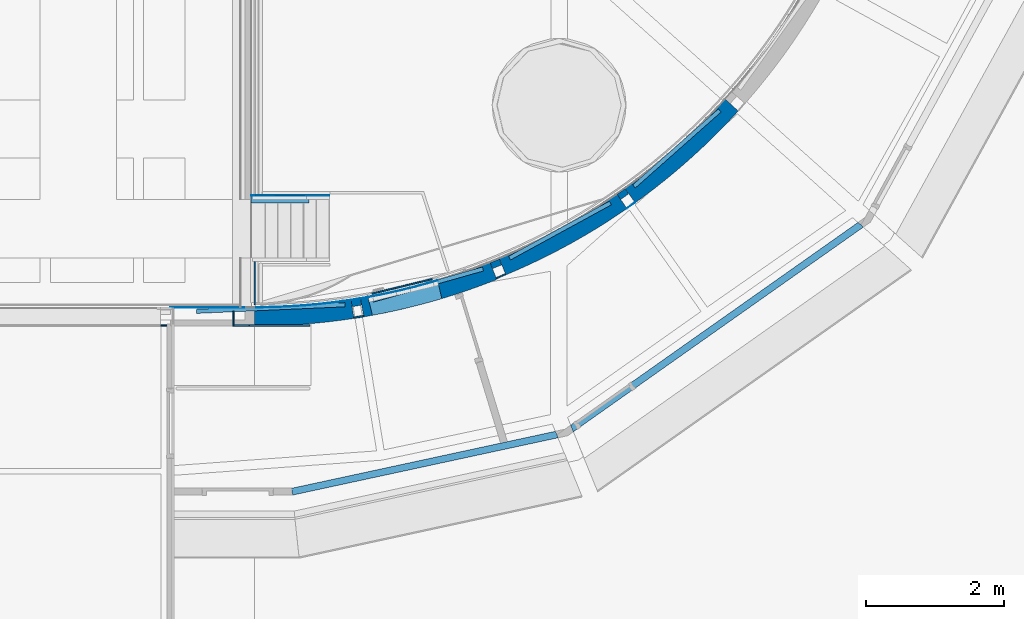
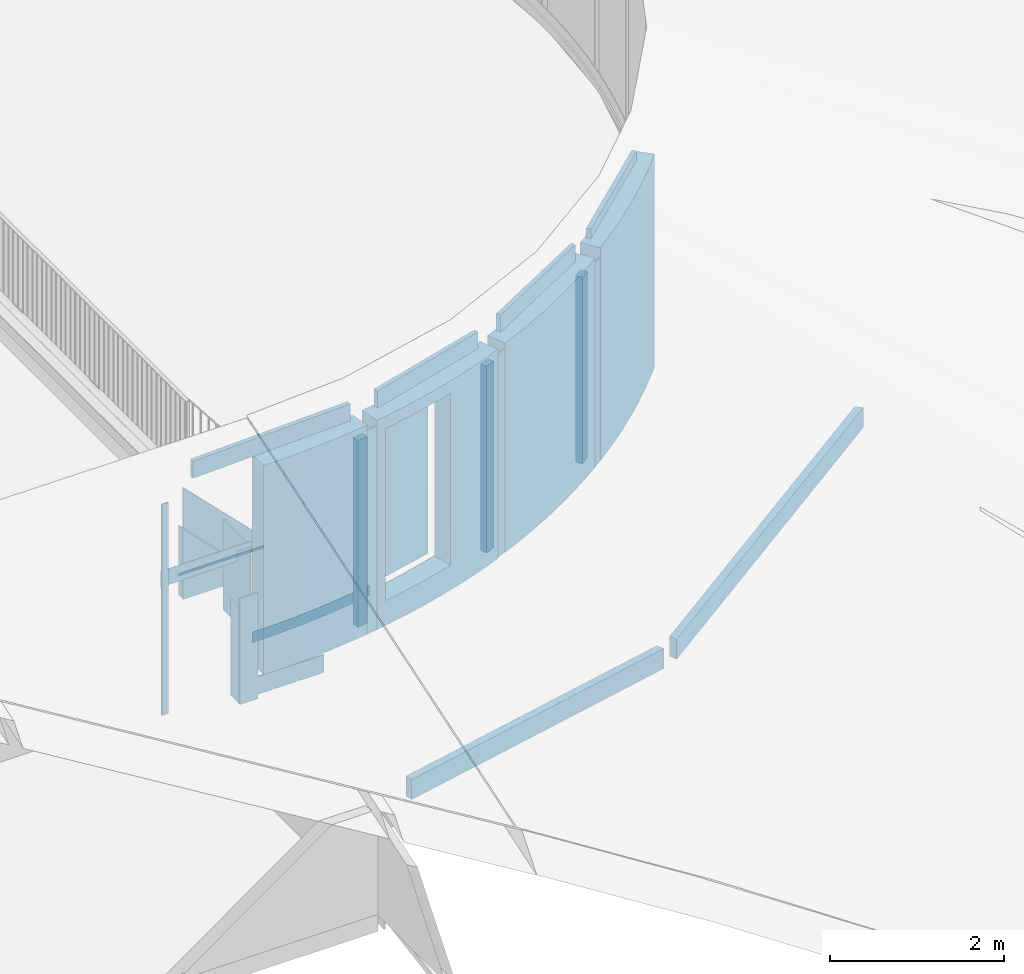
# One storey, part 28 of 66: 27 walls, 6 openings.
"""IFC2X3 building model written with IfcOpenShell, lengths in millimetres."""

import ifcopenshell
import ifcopenshell.guid

model = None  # the IFC model being written
_history = None  # IfcOwnerHistory: only IFC2X3 demands one
_inside = {}  # id of a spatial element -> (the spatial element, [elements in it])
_under = {}  # id of a project, library or spatial element -> (it, [spatial elements below it])
_declared = {}  # id of a project -> (the project, [libraries it declares])
_typed = {}  # id of a type object -> (the type object, [elements of that type])
_made_of = {}  # id of a material, layer set ... -> (it, [elements and type objects made of it])


def new_model(schema):
    """Start an empty IFC model of exactly this schema.

    Asked for "IFC4X3", IfcOpenShell would pick the latest addendum, in which some entities
    have other attributes; the version numbers below select the first issue.
    IFC2X3 requires an IfcOwnerHistory on every rooted entity: one is made here for all.
    """
    global model, _history
    if schema == "IFC4X3":
        model = ifcopenshell.file(schema_version=(4, 3, 0, 0))
    else:
        model = ifcopenshell.file(schema=schema)
    _inside.clear()
    _under.clear()
    _declared.clear()
    _typed.clear()
    _made_of.clear()
    _history = None
    if model.schema == "IFC2X3":
        org = make("IfcOrganization", Name="unknown")
        user = make(
            "IfcPersonAndOrganization",
            ThePerson=make("IfcPerson", FamilyName="unknown"),
            TheOrganization=org,
        )
        app = make(
            "IfcApplication",
            ApplicationDeveloper=org,
            Version="unknown",
            ApplicationFullName="unknown",
            ApplicationIdentifier="unknown",
        )
        _history = make(
            "IfcOwnerHistory",
            OwningUser=user,
            OwningApplication=app,
            ChangeAction="ADDED",
            CreationDate=0,
        )
    return model


def make(cls, **values):
    """One entity of the class cls with the attributes given. An attribute that is None is left unset."""
    return model.create_entity(
        cls, **{name: value for name, value in values.items() if value is not None}
    )


def entity(cls, *values):
    """Any entity or typed value of the class cls, its attributes in the order of the schema. None: left unset."""
    e = model.create_entity(cls)
    for i, value in enumerate(values):
        if value is not None:
            e[i] = value
    return e


def rooted(cls, **values):
    """An entity with a GlobalId (a new one), such as an element, a storey or a relation."""
    return make(cls, GlobalId=ifcopenshell.guid.new(), OwnerHistory=_history, **values)


def si_unit(unit_type, name, prefix=None):
    """IfcSIUnit, for example si_unit("LENGTHUNIT", "METRE", prefix="MILLI")."""
    return make("IfcSIUnit", UnitType=unit_type, Prefix=prefix, Name=name)


def converted_unit(unit_type, name, factor, base, dimensions=None, offset=None):
    """IfcConversionBasedUnit, such as the inch: factor (a typed value) times the base unit."""
    return make(
        "IfcConversionBasedUnit"
        if offset is None
        else "IfcConversionBasedUnitWithOffset",
        ConversionOffset=offset,
        Dimensions=None
        if dimensions is None
        else entity("IfcDimensionalExponents", *dimensions),
        UnitType=unit_type,
        Name=name,
        ConversionFactor=make(
            "IfcMeasureWithUnit", ValueComponent=factor, UnitComponent=base
        ),
    )


def derived_unit(unit_type, elements):
    """IfcDerivedUnit: a product of units, each with its exponent."""
    return make(
        "IfcDerivedUnit",
        Elements=[
            make("IfcDerivedUnitElement", Unit=unit, Exponent=power)
            for unit, power in elements
        ],
        UnitType=unit_type,
    )


def assignment(units):
    """IfcUnitAssignment: the units of a project."""
    return None if units is None else make("IfcUnitAssignment", Units=units)


def point(xyz):
    """IfcCartesianPoint."""
    return None if xyz is None else make("IfcCartesianPoint", Coordinates=xyz)


def direction(xyz):
    """IfcDirection."""
    return None if xyz is None else make("IfcDirection", DirectionRatios=xyz)


def frame(location, z_axis=None, x_axis=None):
    """IfcAxis2Placement3D, a coordinate frame: its origin and axes. An axis left out is left unset."""
    return make(
        "IfcAxis2Placement3D",
        Location=point(location),
        Axis=direction(z_axis),
        RefDirection=direction(x_axis),
    )


def frame_2d(location, x_axis=None):
    """IfcAxis2Placement2D, a coordinate frame in the plane: its origin and x axis."""
    return make(
        "IfcAxis2Placement2D", Location=point(location), RefDirection=direction(x_axis)
    )


def origin():
    """The frame at (0, 0, 0) with its axes left unset."""
    return frame((0.0, 0.0, 0.0))


def origin_2d_with_axis():
    """The frame at (0, 0) in the plane with the x axis (1, 0) written out."""
    return frame_2d((0.0, 0.0), x_axis=(1.0, 0.0))


def place(relative_to, where):
    """IfcLocalPlacement: puts the frame where relative to a parent placement (None: the world)."""
    return make(
        "IfcLocalPlacement", PlacementRelTo=relative_to, RelativePlacement=where
    )


def context(
    kind, dimensions, precision=None, world=None, true_north=None, identifier=None
):
    """IfcGeometricRepresentationContext, for example the 3D "Model" context."""
    return make(
        "IfcGeometricRepresentationContext",
        ContextIdentifier=identifier,
        ContextType=kind,
        CoordinateSpaceDimension=dimensions,
        Precision=precision,
        WorldCoordinateSystem=world,
        TrueNorth=true_north,
    )


def subcontext(parent, identifier, kind, view, scale=None):
    """IfcGeometricRepresentationSubContext, for example "Body" below "Model"."""
    return make(
        "IfcGeometricRepresentationSubContext",
        ContextIdentifier=identifier,
        ContextType=kind,
        ParentContext=parent,
        TargetScale=scale,
        TargetView=view,
    )


def project(units=None, contexts=None):
    """IfcProject with its units and contexts."""
    return rooted(
        "IfcProject",
        Name="project",
        RepresentationContexts=contexts,
        UnitsInContext=assignment(units),
    )


def spatial(cls, under=None, at=None, **own):
    """A site, building, storey or space (cls), placed at a placement, below another one or the project."""
    s = rooted(cls, ObjectPlacement=at, **own)
    if under is not None:
        _under.setdefault(under.id(), (under, []))[1].append(s)
    return s


def polyline(points):
    """IfcPolyline through the points."""
    return make("IfcPolyline", Points=[point(p) for p in points])


def circle_curve(where, radius):
    """IfcCircle in the frame where."""
    return make("IfcCircle", Position=where, Radius=radius)


def parameter(value):
    """IfcParameterValue: where a trimmed curve begins or ends, as a parameter of its basis curve."""
    return model.create_entity("IfcParameterValue", value)


def trimmed(basis, trim1, trim2, sense, master):
    """IfcTrimmedCurve: the piece of a basis curve between two trims."""
    return make(
        "IfcTrimmedCurve",
        BasisCurve=basis,
        Trim1=trim1,
        Trim2=trim2,
        SenseAgreement=sense,
        MasterRepresentation=master,
    )


def segment(curve, same_sense, transition):
    """IfcCompositeCurveSegment."""
    return make(
        "IfcCompositeCurveSegment",
        Transition=transition,
        SameSense=same_sense,
        ParentCurve=curve,
    )


def composite_curve(segments, self_intersect=None):
    """IfcCompositeCurve: segments joined end to end."""
    return make("IfcCompositeCurve", Segments=segments, SelfIntersect=self_intersect)


def profile(cls, at=None, kind="AREA", **sizes):
    """A parametric profile (cls). Its sizes go by their IFC names, for example OverallWidth=200.0."""
    return make(cls, ProfileType=kind, Position=at, **sizes)


def rectangle(**sizes):
    """IfcRectangleProfileDef."""
    return profile("IfcRectangleProfileDef", **sizes)


def circle(**sizes):
    """IfcCircleProfileDef."""
    return profile("IfcCircleProfileDef", **sizes)


def outline(outer, holes=None, kind="AREA"):
    """IfcArbitraryClosedProfileDef: a profile drawn as a closed curve; with holes, ...WithVoids."""
    if holes is None:
        return make("IfcArbitraryClosedProfileDef", ProfileType=kind, OuterCurve=outer)
    return make(
        "IfcArbitraryProfileDefWithVoids",
        ProfileType=kind,
        OuterCurve=outer,
        InnerCurves=holes,
    )


def extrude(swept, where, along, depth):
    """IfcExtrudedAreaSolid: the profile swept, set in the frame where, extruded along a direction by depth."""
    return make(
        "IfcExtrudedAreaSolid",
        SweptArea=swept,
        Position=where,
        ExtrudedDirection=direction(along),
        Depth=depth,
    )


def clip(a, b, op="DIFFERENCE"):
    """IfcBooleanClippingResult: the solid a cut by the half space b."""
    return make(
        "IfcBooleanClippingResult", Operator=op, FirstOperand=a, SecondOperand=b
    )


def halfspace(plane, agree):
    """IfcHalfSpaceSolid: all space on one side of the plane z = 0 of the frame plane."""
    return make(
        "IfcHalfSpaceSolid",
        BaseSurface=make("IfcPlane", Position=plane),
        AgreementFlag=agree,
    )


def shape(context_of_items, identifier, shape_type, items):
    """IfcShapeRepresentation: the items that make up one representation, for example the "Body"."""
    return make(
        "IfcShapeRepresentation",
        ContextOfItems=context_of_items,
        RepresentationIdentifier=identifier,
        RepresentationType=shape_type,
        Items=items,
    )


def material(Name=None, Category=None):
    """IfcMaterial."""
    return make("IfcMaterial", Name=Name, Category=Category)


def layer(
    of_material, thickness, ventilated=None, Name=None, Category=None, Priority=None
):
    """IfcMaterialLayer: one layer of a wall or slab, of a material (None: an air gap)."""
    return make(
        "IfcMaterialLayer",
        Material=of_material,
        LayerThickness=thickness,
        IsVentilated=ventilated,
        Name=Name,
        Category=Category,
        Priority=Priority,
    )


def layer_set(layers, Name=None):
    """IfcMaterialLayerSet."""
    return make("IfcMaterialLayerSet", MaterialLayers=layers, LayerSetName=Name)


def layer_usage(for_layer_set, set_direction, sense, offset, extent=None):
    """IfcMaterialLayerSetUsage: how a layer set lies in its element."""
    return make(
        "IfcMaterialLayerSetUsage",
        ForLayerSet=for_layer_set,
        LayerSetDirection=set_direction,
        DirectionSense=sense,
        OffsetFromReferenceLine=offset,
        ReferenceExtent=extent,
    )


def made_of(thing, what):
    """Note that an element or type object is made of a material, layer set ...; save() writes the relation."""
    if what is not None:
        _made_of.setdefault(what.id(), (what, []))[1].append(thing)
    return thing


def type_object(cls, material=None, **own):
    """A type object (cls), such as IfcWallType, which elements share."""
    return made_of(rooted(cls, **own), material)


def element(
    cls,
    number,
    at=None,
    inside=None,
    cuts=None,
    type_object=None,
    material=None,
    context=None,
    identifier="Body",
    shape_type=None,
    held_by="IfcProductDefinitionShape",
    body=None,
    shapes=None,
    **own,
):
    """One element of the class cls, such as IfcWall. Its Tag is "e" and its number.

    at: its placement. inside: the storey or other place that contains it. cuts: it is an
    opening in that element (IfcRelVoidsElement). A single representation is given by context,
    identifier, shape_type and body (its items); several are given by shapes. held_by: the class
    of the entity that holds the representations. save() writes the other relations.
    """
    e = rooted(cls, Tag="e%d" % number, ObjectPlacement=at, **own)
    if body is not None:
        shapes = [shape(context, identifier, shape_type, body)]
    if shapes is not None:
        e.Representation = make(held_by, Representations=shapes)
    if inside is not None:
        _inside.setdefault(inside.id(), (inside, []))[1].append(e)
    if cuts is not None:
        rooted(
            "IfcRelVoidsElement", RelatingBuildingElement=cuts, RelatedOpeningElement=e
        )
    if type_object is not None:
        _typed.setdefault(type_object.id(), (type_object, []))[1].append(e)
    return made_of(e, material)


def aggregate(whole, parts):
    """IfcRelAggregates: a whole, such as a stair, and the parts it consists of."""
    return rooted("IfcRelAggregates", RelatingObject=whole, RelatedObjects=parts)


def save(model, path):
    """Write the relations noted so far, then the file.

    IfcRelAggregates (storeys below a building ...), IfcRelContainedInSpatialStructure (elements
    in a storey), IfcRelDefinesByType, IfcRelAssociatesMaterial and IfcRelDeclares: one each for
    every whole, place, type object, material and project.
    """
    for whole, parts in _under.values():
        aggregate(whole, parts)
    for where, things in _inside.values():
        rooted(
            "IfcRelContainedInSpatialStructure",
            RelatedElements=things,
            RelatingStructure=where,
        )
    for kind, things in _typed.values():
        rooted("IfcRelDefinesByType", RelatedObjects=things, RelatingType=kind)
    for what, things in _made_of.values():
        rooted("IfcRelAssociatesMaterial", RelatedObjects=things, RelatingMaterial=what)
    for by, libraries in _declared.values():
        rooted("IfcRelDeclares", RelatingContext=by, RelatedDefinitions=libraries)
    model.write(path)


model = new_model("IFC2X3")

# Units and contexts
model_context = context("Model", 3, precision=0.01, world=origin(), true_north=direction((6.12303176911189e-17, 1.0)))
body_context = subcontext(model_context, "Body", "Model", "MODEL_VIEW")
ifc_project = project(units=[si_unit("LENGTHUNIT", "METRE", prefix="MILLI"), si_unit("AREAUNIT", "SQUARE_METRE"), si_unit("VOLUMEUNIT", "CUBIC_METRE"), converted_unit("PLANEANGLEUNIT", "DEGREE", entity("IfcRatioMeasure", 0.0174532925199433), si_unit("PLANEANGLEUNIT", "RADIAN"), dimensions=[0, 0, 0, 0, 0, 0, 0]), si_unit("MASSUNIT", "GRAM", prefix="KILO"), derived_unit("MASSDENSITYUNIT", [(si_unit("MASSUNIT", "GRAM", prefix="KILO"), 1), (si_unit("LENGTHUNIT", "METRE"), -3)]), derived_unit("MOMENTOFINERTIAUNIT", [(si_unit("LENGTHUNIT", "METRE"), 4)]), si_unit("TIMEUNIT", "SECOND"), si_unit("FREQUENCYUNIT", "HERTZ"), si_unit("THERMODYNAMICTEMPERATUREUNIT", "DEGREE_CELSIUS"), derived_unit("THERMALTRANSMITTANCEUNIT", [(si_unit("MASSUNIT", "GRAM", prefix="KILO"), 1), (si_unit("THERMODYNAMICTEMPERATUREUNIT", "KELVIN"), -1), (si_unit("TIMEUNIT", "SECOND"), -3)]), derived_unit("VOLUMETRICFLOWRATEUNIT", [(si_unit("LENGTHUNIT", "METRE"), 3), (si_unit("TIMEUNIT", "SECOND"), -1)]), si_unit("ELECTRICCURRENTUNIT", "AMPERE"), si_unit("ELECTRICVOLTAGEUNIT", "VOLT"), si_unit("POWERUNIT", "WATT"), si_unit("FORCEUNIT", "NEWTON", prefix="KILO"), si_unit("ILLUMINANCEUNIT", "LUX"), si_unit("LUMINOUSFLUXUNIT", "LUMEN"), si_unit("LUMINOUSINTENSITYUNIT", "CANDELA"), derived_unit("USERDEFINED", [(si_unit("MASSUNIT", "GRAM", prefix="KILO"), -1), (si_unit("LENGTHUNIT", "METRE"), -2), (si_unit("TIMEUNIT", "SECOND"), 3), (si_unit("LUMINOUSFLUXUNIT", "LUMEN"), 1)]), derived_unit("LINEARVELOCITYUNIT", [(si_unit("LENGTHUNIT", "METRE"), 1), (si_unit("TIMEUNIT", "SECOND"), -1)]), si_unit("PRESSUREUNIT", "PASCAL"), derived_unit("USERDEFINED", [(si_unit("LENGTHUNIT", "METRE"), -2), (si_unit("MASSUNIT", "GRAM", prefix="KILO"), 1), (si_unit("TIMEUNIT", "SECOND"), -2)]), derived_unit("LINEARFORCEUNIT", [(si_unit("MASSUNIT", "GRAM", prefix="KILO"), 1), (si_unit("LENGTHUNIT", "METRE"), 1), (si_unit("TIMEUNIT", "SECOND"), -2), (si_unit("LENGTHUNIT", "METRE"), -1)]), derived_unit("PLANARFORCEUNIT", [(si_unit("MASSUNIT", "GRAM", prefix="KILO"), 1), (si_unit("LENGTHUNIT", "METRE"), 1), (si_unit("TIMEUNIT", "SECOND"), -2), (si_unit("LENGTHUNIT", "METRE"), -2)])], contexts=[model_context])

# Site, building, storey
site_placement = place(None, origin())
site = spatial("IfcSite", under=ifc_project, at=site_placement, Name="Default", CompositionType="ELEMENT")
building_placement = place(site_placement, origin())
building = spatial("IfcBuilding", under=site, at=building_placement, Name="-", CompositionType="ELEMENT")
storey_placement = place(building_placement, frame((0.0, 0.0, 3070.0)))
storey = spatial("IfcBuildingStorey", under=building, at=storey_placement, Name="01 eerste verdieping", CompositionType="ELEMENT", Elevation=3070.00000000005)

# Wall, opening
ifc_material_1 = material(Name="NLRS_i4_hout_multiplex")
ifc_layer_1 = layer(ifc_material_1, 9.0)
ifc_material_2 = material(Name="NLRS_m1_isolatie")
ifc_layer_2 = layer(ifc_material_2, 89.0)
ifc_layer_3 = layer(ifc_material_1, 9.0)
ifc_layer_set_1 = layer_set([ifc_layer_1, ifc_layer_2, ifc_layer_3], Name="Basic Wall:NLRS_21_WA_HSB-wand_110mm")
ifc_layer_usage_1 = layer_usage(ifc_layer_set_1, "AXIS2", "NEGATIVE", 53.5)
wall_type_1 = type_object("IfcWallType", Name="Basic Wall:NLRS_21_WA_HSB-wand_110mm", PredefinedType="STANDARD", material=ifc_layer_set_1)
wall_1_placement = place(storey_placement, frame((50599.1203901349, 11977.4965964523, 100.0)))
wall_1 = element("IfcWallStandardCase", 1, at=wall_1_placement, inside=storey, type_object=wall_type_1, material=ifc_layer_usage_1, Name="Basic Wall:NLRS_21_WA_HSB-wand_110mm", ObjectType="Basic Wall:NLRS_21_WA_HSB-wand_110mm", context=body_context, shape_type="Clipping", body=[
    clip(clip(extrude(rectangle(XDim=839.165664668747, YDim=107.000000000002, at=frame_2d((419.582832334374, 6.75015598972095e-14), x_axis=(-1.0, 0.0))), origin(), (0.0, 0.0, 1.0), 985.81366904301), halfspace(frame((0.0, -53.4999999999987, 985.81366904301), z_axis=(0.707379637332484, 0.0, 0.706833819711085), x_axis=(0.0, 1.0, 0.0)), False)), halfspace(frame((802.500000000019, 0.0, 0.0), z_axis=(0.969883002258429, 0.0, -0.243571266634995), x_axis=(0.0, 1.0, 0.0)), False)),
])
opening_1_placement = place(wall_1_placement, origin())
element("IfcOpeningElement", 2, at=opening_1_placement, cuts=wall_1, Name="Basic Wall:NLRS_21_WA_HSB-wand_110mm", ObjectType="Opening", context=body_context, shape_type="SweptSolid", body=[
    extrude(outline(polyline([(-97.3788463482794, -11.8538016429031), (53.1547743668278, -11.8538016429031), (44.2240719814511, 23.7076032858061), (-97.3788463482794, -11.8538016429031)])), frame((814.721888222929, 53.5000000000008, 97.3333333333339), z_axis=(0.0, -1.0, 0.0), x_axis=(0.243571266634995, 0.0, 0.969883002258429)), (0.0, 0.0, 1.0), 107.0),
])

# Walls
ifc_material_3 = material(Name="NLRS_f7_gipsplaat_gen")
ifc_layer_4 = layer(ifc_material_3, 12.5)
ifc_layer_5 = layer(ifc_material_2, 75.0)
ifc_layer_6 = layer(ifc_material_3, 12.5)
ifc_layer_set_2 = layer_set([ifc_layer_4, ifc_layer_5, ifc_layer_6], Name="Basic Wall:NLRS_21_WA_Metalstud 100mm")
ifc_layer_usage_2 = layer_usage(ifc_layer_set_2, "AXIS2", "NEGATIVE", 50.0)
wall_type_2 = type_object("IfcWallType", Name="Basic Wall:NLRS_21_WA_Metalstud 100mm", PredefinedType="STANDARD", material=ifc_layer_set_2)
wall_2_placement = place(storey_placement, frame((51193.082806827, 7752.05349695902, -370.0), z_axis=(0.0, 0.0, 1.0), x_axis=(0.977456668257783, 0.211136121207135, 0.0)))
element("IfcWallStandardCase", 3, at=wall_2_placement, inside=storey, type_object=wall_type_2, material=ifc_layer_usage_2, Name="Basic Wall:NLRS_21_WA_Metalstud 100mm", ObjectType="Basic Wall:NLRS_21_WA_Metalstud 100mm", context=body_context, shape_type="SweptSolid", body=[
    extrude(outline(polyline([(3925.04538246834, -50.0), (3907.41532412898, 50.0), (0.0, 50.0), (0.0, -50.0), (3925.04538246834, -50.0)])), origin(), (0.0, 0.0, 1.0), 281.00000000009),
])
ifc_layer_usage_3 = layer_usage(ifc_layer_set_2, "AXIS2", "NEGATIVE", 50.0)
wall_3_placement = place(storey_placement, frame((55230.0486654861, 8658.86593528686, -370.0), z_axis=(0.0, 0.0, 1.0), x_axis=(0.817088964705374, 0.576511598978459, 0.0)))
element("IfcWallStandardCase", 4, at=wall_3_placement, inside=storey, type_object=wall_type_2, material=ifc_layer_usage_3, Name="Basic Wall:NLRS_21_WA_Metalstud 100mm", ObjectType="Basic Wall:NLRS_21_WA_Metalstud 100mm", context=body_context, shape_type="SweptSolid", body=[
    extrude(outline(polyline([(5135.94151948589, -50.0), (5112.88794899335, 50.0), (23.120069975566, 50.0), (0.0, -50.0), (5135.94151948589, -50.0)])), origin(), (0.0, 0.0, 1.0), 281.00000000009),
])
ifc_material_4 = material(Name="AL Houten gevelbekleding staand")
ifc_layer_7 = layer(ifc_material_4, 20.0)
ifc_layer_set_3 = layer_set([ifc_layer_7], Name="Basic Wall:NLRS_42_WA_Houten gevelbekleding staand 20mm")
ifc_layer_usage_4 = layer_usage(ifc_layer_set_3, "AXIS2", "NEGATIVE", 10.0)
wall_type_3 = type_object("IfcWallType", Name="Basic Wall:NLRS_42_WA_Houten gevelbekleding staand 20mm", PredefinedType="STANDARD", material=ifc_layer_set_3)
wall_4_placement = place(storey_placement, frame((50652.137263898, 10458.6257955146, 450.0), z_axis=(0.0, 0.0, 1.0), x_axis=(0.0, 1.0, 0.0)))
element("IfcWallStandardCase", 5, at=wall_4_placement, inside=storey, type_object=wall_type_3, material=ifc_layer_usage_4, Name="Basic Wall:NLRS_42_WA_Houten gevelbekleding staand 20mm", ObjectType="Basic Wall:NLRS_42_WA_Houten gevelbekleding staand 20mm", context=body_context, shape_type="SweptSolid", body=[
    extrude(rectangle(XDim=622.370800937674, YDim=19.9999999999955, at=frame_2d((311.185400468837, 0.0), x_axis=(-1.0, 0.0))), origin(), (0.0, 0.0, 1.0), 1275.0),
])

# Wall, opening
ifc_layer_usage_5 = layer_usage(ifc_layer_set_3, "AXIS2", "NEGATIVE", 10.0)
wall_5_placement = place(storey_placement, frame((52347.5155383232, 10616.4745934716, 502.0), z_axis=(0.0, 0.0, 1.0), x_axis=(0.972293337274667, 0.233764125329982, 0.0)))
wall_5 = element("IfcWallStandardCase", 6, at=wall_5_placement, inside=storey, type_object=wall_type_3, material=ifc_layer_usage_5, Name="Basic Wall:NLRS_42_WA_Houten gevelbekleding staand 20mm", ObjectType="Basic Wall:NLRS_42_WA_Houten gevelbekleding staand 20mm", context=body_context, shape_type="SweptSolid", body=[
    extrude(rectangle(XDim=894.954998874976, YDim=20.0000000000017, at=frame_2d((447.477499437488, 1.24611432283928e-12), x_axis=(-1.0, 0.0))), origin(), (0.0, 0.0, 1.0), 2303.0),
])
opening_2_placement = place(wall_5_placement, origin())
element("IfcOpeningElement", 7, at=opening_2_placement, cuts=wall_5, Name="Basic Wall:NLRS_42_WA_Houten gevelbekleding staand 20mm", ObjectType="Opening", context=body_context, shape_type="SweptSolid", body=[
    extrude(circle(Radius=24.9999999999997, at=origin_2d_with_axis()), frame((34.9549988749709, 10.0, 1050.0), z_axis=(0.0, -1.0, 0.0), x_axis=(-1.0, 0.0, 0.0)), (0.0, 0.0, 1.0), 20.0),
])

# Wall
ifc_layer_8 = layer(ifc_material_1, 10.0)
ifc_layer_9 = layer(ifc_material_2, 235.0)
ifc_layer_10 = layer(ifc_material_1, 10.0)
ifc_layer_11 = layer(ifc_material_3, 12.5)
ifc_layer_set_4 = layer_set([ifc_layer_8, ifc_layer_9, ifc_layer_10, ifc_layer_11], Name="Basic Wall:NLRS_21_WA_HSB-wand_268mm")
ifc_layer_usage_6 = layer_usage(ifc_layer_set_4, "AXIS2", "NEGATIVE", 133.75)
wall_type_4 = type_object("IfcWallType", Name="Basic Wall:NLRS_21_WA_HSB-wand_268mm", PredefinedType="STANDARD", material=ifc_layer_set_4)
wall_6_placement = place(storey_placement, frame((50646.5626620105, 10280.8740954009, 100.0)))
element("IfcWallStandardCase", 8, at=wall_6_placement, inside=storey, type_object=wall_type_4, material=ifc_layer_usage_6, Name="Basic Wall:NLRS_21_WA_HSB-wand_268mm", ObjectType="Basic Wall:NLRS_21_WA_HSB-wand_268mm", context=body_context, shape_type="SweptSolid", body=[
    extrude(outline(composite_curve([segment(trimmed(circle_curve(frame_2d((0.0, 9335.1856335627), x_axis=(1.0, 0.0)), 9201.4356335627), [parameter(269.999999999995)], [parameter(278.751311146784)], True, "PARAMETER"), False, "CONTINUOUS"), segment(polyline([(0.0, 133.75), (0.0, -133.75)]), True, "CONTINUOUS"), segment(trimmed(circle_curve(frame_2d((0.0, 9335.1856335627), x_axis=(1.0, 0.0)), 9468.9356335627), [parameter(269.999999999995)], [parameter(278.751311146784)], True, "PARAMETER"), True, "CONTINUOUS"), segment(polyline([(1440.66071542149, -23.512926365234), (1399.96165944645, 240.872846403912)]), True, "CONTINUOUS")], self_intersect=False)), origin(), (0.0, 0.0, 1.0), 2945.0),
])

# Wall, opening
ifc_layer_usage_7 = layer_usage(ifc_layer_set_4, "AXIS2", "NEGATIVE", 133.75)
wall_7_placement = place(storey_placement, frame((52207.2378899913, 10412.2570558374, 100.0)))
wall_7 = element("IfcWallStandardCase", 9, at=wall_7_placement, inside=storey, type_object=wall_type_4, material=ifc_layer_usage_7, Name="Basic Wall:NLRS_21_WA_HSB-wand_268mm", ObjectType="Basic Wall:NLRS_21_WA_HSB-wand_268mm", context=body_context, shape_type="SweptSolid", body=[
    extrude(outline(composite_curve([segment(trimmed(circle_curve(frame_2d((-1560.67522797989, 9203.80267312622), x_axis=(1.0, 0.0)), 9201.4356335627), [parameter(279.624016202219)], [parameter(291.74085005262)], True, "PARAMETER"), False, "CONTINUOUS"), segment(polyline([(-22.3605957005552, 131.867608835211), (22.3605957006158, -131.867608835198)]), True, "CONTINUOUS"), segment(trimmed(circle_curve(frame_2d((-1560.67522797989, 9203.80267312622), x_axis=(1.0, 0.0)), 9468.9356335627), [parameter(279.624016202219)], [parameter(291.74085005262)], True, "PARAMETER"), True, "CONTINUOUS"), segment(polyline([(1946.70474494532, 408.404571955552), (1847.62030936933, 656.876953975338)]), True, "CONTINUOUS")], self_intersect=False)), origin(), (0.0, 0.0, 1.0), 2945.0),
])
opening_3_placement = place(wall_7_placement, origin())
element("IfcOpeningElement", 10, at=opening_3_placement, cuts=wall_7, Name="Basic Wall:NLRS_21_WA_HSB-wand_268mm", ObjectType="Opening", context=body_context, shape_type="SweptSolid", body=[
    extrude(rectangle(XDim=460.086226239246, YDim=1033.98355141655, at=frame_2d((-5.24380538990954e-12, 3.18323145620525e-12), x_axis=(1.0, 0.0))), frame((620.656908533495, 18258.6217723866, 350.0), z_axis=(0.0, 0.0, 1.0), x_axis=(-0.234120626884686, -0.972207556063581, 0.0)), (0.0, 0.0, 1.0), 2422.0),
    extrude(rectangle(XDim=1034.0, YDim=450.000000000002, at=frame_2d((3.75166564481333e-12, -3.11217718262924e-12), x_axis=(1.0, 0.0))), frame((615.215534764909, 153.636877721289, 350.0), z_axis=(0.0, 0.0, 1.0), x_axis=(-0.972293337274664, -0.233764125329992, 0.0)), (0.0, 0.0, 1.0), 2422.0),
])

# Walls
ifc_layer_12 = layer(ifc_material_1, 18.0)
ifc_layer_set_5 = layer_set([ifc_layer_12], Name="Basic Wall:NLRS_41_WA_plaatmateriaal 18mm_gen_aly")
ifc_layer_usage_8 = layer_usage(ifc_layer_set_5, "AXIS2", "NEGATIVE", 9.0)
wall_type_5 = type_object("IfcWallType", Name="Basic Wall:NLRS_41_WA_plaatmateriaal 18mm_gen_aly", PredefinedType="STANDARD", material=ifc_layer_set_5)
wall_8_placement = place(storey_placement, frame((54282.1619146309, 10896.1010439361, 100.0), z_axis=(0.0, 0.0, 1.0), x_axis=(-0.925957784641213, -0.377627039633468, 0.0)))
element("IfcWallStandardCase", 11, at=wall_8_placement, inside=storey, type_object=wall_type_5, material=ifc_layer_usage_8, Name="Basic Wall:NLRS_41_WA_plaatmateriaal 18mm_gen_aly", ObjectType="Basic Wall:NLRS_41_WA_plaatmateriaal 18mm_gen_aly", context=body_context, shape_type="SweptSolid", body=[
    extrude(rectangle(XDim=147.038491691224, YDim=17.9999999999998, at=frame_2d((73.519245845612, -8.88178419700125e-16), x_axis=(-1.0, 0.0))), origin(), (0.0, 0.0, 1.0), 2870.0),
])
ifc_layer_usage_9 = layer_usage(ifc_layer_set_5, "AXIS2", "POSITIVE", -9.0)
wall_9_placement = place(storey_placement, frame((49290.9383944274, 10156.1240954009, 0.0)))
element("IfcWallStandardCase", 12, at=wall_9_placement, inside=storey, type_object=wall_type_5, material=ifc_layer_usage_9, Name="Basic Wall:NLRS_41_WA_plaatmateriaal 18mm_gen_aly", ObjectType="Basic Wall:NLRS_41_WA_plaatmateriaal 18mm_gen_aly", context=body_context, shape_type="SweptSolid", body=[
    extrude(rectangle(XDim=90.681995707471, YDim=18.0000000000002, at=frame_2d((45.3409978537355, 1.00364161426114e-13), x_axis=(-1.0, 0.0))), origin(), (0.0, 0.0, 1.0), 2970.0),
])
ifc_layer_13 = layer(ifc_material_1, 10.0)
ifc_layer_14 = layer(ifc_material_2, 235.0)
ifc_layer_15 = layer(ifc_material_1, 10.0)
ifc_layer_set_6 = layer_set([ifc_layer_13, ifc_layer_14, ifc_layer_15], Name="Basic Wall:NLRS_21_WA_HSB-wand_268mm (zonder gips)")
ifc_layer_usage_10 = layer_usage(ifc_layer_set_6, "AXIS2", "NEGATIVE", 127.5)
wall_type_6 = type_object("IfcWallType", Name="Basic Wall:NLRS_21_WA_HSB-wand_268mm (zonder gips)", PredefinedType="STANDARD", material=ifc_layer_set_6)
wall_10_placement = place(storey_placement, frame((54236.5680389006, 11005.4788894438, 100.0)))
element("IfcWallStandardCase", 13, at=wall_10_placement, inside=storey, type_object=wall_type_6, material=ifc_layer_usage_10, Name="Basic Wall:NLRS_21_WA_HSB-wand_268mm (zonder gips)", ObjectType="Basic Wall:NLRS_21_WA_HSB-wand_268mm (zonder gips)", context=body_context, shape_type="SweptSolid", body=[
    extrude(outline(composite_curve([segment(trimmed(circle_curve(frame_2d((-3590.00537688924, 8610.58083951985), x_axis=(1.0, 0.0)), 9201.5), [parameter(292.632696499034)], [parameter(304.748293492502)], True, "PARAMETER"), False, "CONTINUOUS"), segment(polyline([(-49.064817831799, 117.681322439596), (49.064817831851, -117.681322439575)]), True, "CONTINUOUS"), segment(trimmed(circle_curve(frame_2d((-3590.00537688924, 8610.58083951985), x_axis=(1.0, 0.0)), 9456.5), [parameter(292.632696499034)], [parameter(304.748293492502)], True, "PARAMETER"), True, "CONTINUOUS"), segment(polyline([(1799.93758602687, 840.51603242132), (1654.59465200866, 1050.04033060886)]), True, "CONTINUOUS")], self_intersect=False)), origin(), (0.0, 0.0, 1.0), 2945.0),
])
ifc_layer_usage_11 = layer_usage(ifc_layer_set_6, "AXIS2", "NEGATIVE", 127.5)
wall_11_placement = place(storey_placement, frame((56081.6800652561, 12033.8608517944, 100.0)))
element("IfcWallStandardCase", 14, at=wall_11_placement, inside=storey, type_object=wall_type_6, material=ifc_layer_usage_11, Name="Basic Wall:NLRS_21_WA_HSB-wand_268mm (zonder gips)", ObjectType="Basic Wall:NLRS_21_WA_HSB-wand_268mm (zonder gips)", context=body_context, shape_type="SweptSolid", body=[
    extrude(outline(composite_curve([segment(trimmed(circle_curve(frame_2d((-5435.1174032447, 7582.19887716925), x_axis=(1.0, 0.0)), 9201.5), [parameter(305.633938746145)], [parameter(317.743829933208)], True, "PARAMETER"), False, "CONTINUOUS"), segment(polyline([(-74.2820740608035, 103.626364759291), (74.2820740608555, -103.626364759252)]), True, "CONTINUOUS"), segment(trimmed(circle_curve(frame_2d((-5435.1174032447, 7582.19887716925), x_axis=(1.0, 0.0)), 9456.5), [parameter(305.633938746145)], [parameter(317.743829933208)], True, "PARAMETER"), True, "CONTINUOUS"), segment(polyline([(1564.07057307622, 1223.20839737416), (1375.3334151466, 1394.68225898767)]), True, "CONTINUOUS")], self_intersect=False)), origin(), (0.0, 0.0, 1.0), 2999.0),
])
ifc_material_5 = material(Name="AL Houten beplating gevel")
ifc_layer_16 = layer(ifc_material_5, 18.0)
ifc_layer_set_7 = layer_set([ifc_layer_16], Name="Basic Wall:NLRS_42_WA_Trespa bruin")
ifc_layer_usage_12 = layer_usage(ifc_layer_set_7, "AXIS2", "NEGATIVE", 9.0)
wall_type_7 = type_object("IfcWallType", Name="Basic Wall:NLRS_42_WA_Trespa bruin", PredefinedType="STANDARD", material=ifc_layer_set_7)
wall_12_placement = place(storey_placement, frame((50661.137263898, 12039.9965964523, 400.0)))
element("IfcWallStandardCase", 15, at=wall_12_placement, inside=storey, type_object=wall_type_7, material=ifc_layer_usage_12, Name="Basic Wall:NLRS_42_WA_Trespa bruin", ObjectType="Basic Wall:NLRS_42_WA_Trespa bruin", context=body_context, shape_type="Clipping", body=[
    clip(clip(extrude(rectangle(XDim=1070.4831262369, YDim=18.0000000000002, at=frame_2d((535.241563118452, -1.31450406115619e-13), x_axis=(-1.0, 0.0))), origin(), (0.0, 0.0, 1.0), 1189.65278426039), halfspace(frame((1070.4831262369, -9.0, 0.0), z_axis=(0.0, 0.0, -1.0), x_axis=(0.0, 1.0, 0.0)), False)), halfspace(frame((0.0, -9.0, 1189.65278426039), z_axis=(0.707379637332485, 0.0, 0.706833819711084), x_axis=(0.0, 1.0, 0.0)), False)),
])
ifc_material_6 = material(Name="n2_bitumen_dak bedekking")
ifc_layer_17 = layer(ifc_material_6, 6.0)
ifc_layer_set_8 = layer_set([ifc_layer_17], Name="Basic Wall:47.11_2 laagse APP dakbedekking")
ifc_layer_usage_13 = layer_usage(ifc_layer_set_8, "AXIS2", "NEGATIVE", 3.0)
wall_type_8 = type_object("IfcWallType", Name="Basic Wall:47.11_2 laagse APP dakbedekking", PredefinedType="STANDARD", material=ifc_layer_set_8)
wall_13_placement = place(storey_placement, frame((50646.5626620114, 10417.6240954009, 387.0)))
element("IfcWallStandardCase", 16, at=wall_13_placement, inside=storey, type_object=wall_type_8, material=ifc_layer_usage_13, Name="Basic Wall:47.11_2 laagse APP dakbedekking", ObjectType="Basic Wall:47.11_2 laagse APP dakbedekking", context=body_context, shape_type="SweptSolid", body=[
    extrude(outline(composite_curve([segment(trimmed(circle_curve(frame_2d((0.0, 9198.4356335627), x_axis=(1.0, 0.0)), 9195.4356335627), [parameter(270.0)], [parameter(280.297815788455)], True, "PARAMETER"), False, "CONTINUOUS"), segment(polyline([(0.0, 3.0), (0.0, -3.0)]), True, "CONTINUOUS"), segment(trimmed(circle_curve(frame_2d((0.0, 9198.4356335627), x_axis=(1.0, 0.0)), 9201.4356335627), [parameter(270.0)], [parameter(280.297815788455)], True, "PARAMETER"), True, "CONTINUOUS"), segment(polyline([(1644.8919508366, 145.218073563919), (1643.81936259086, 151.12142468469)]), True, "CONTINUOUS")], self_intersect=False)), origin(), (0.0, 0.0, 1.0), 150.000000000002),
])
ifc_layer_usage_14 = layer_usage(ifc_layer_set_8, "AXIS2", "POSITIVE", -3.0)
wall_14_placement = place(storey_placement, frame((51731.6203901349, 12033.9965964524, 362.152176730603), z_axis=(0.0, 0.0, 1.0), x_axis=(-1.0, 0.0, 0.0)))
element("IfcWallStandardCase", 17, at=wall_14_placement, inside=storey, type_object=wall_type_8, material=ifc_layer_usage_14, Name="Basic Wall:47.11_2 laagse APP dakbedekking", ObjectType="Basic Wall:47.11_2 laagse APP dakbedekking", context=body_context, shape_type="SweptSolid", body=[
    extrude(rectangle(XDim=1126.48312623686, YDim=5.99999999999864, at=frame_2d((563.241563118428, 0.0), x_axis=(-1.0, 0.0))), origin(), (0.0, 0.0, 1.0), 37.847823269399),
])

# Wall, opening
ifc_layer_usage_15 = layer_usage(ifc_layer_set_8, "AXIS2", "NEGATIVE", 3.0)
wall_15_placement = place(storey_placement, frame((50652.137263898, 10417.6240954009, 1592.84273105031), z_axis=(0.0, 0.0, 1.0), x_axis=(-1.0, 0.0, 0.0)))
wall_15 = element("IfcWallStandardCase", 18, at=wall_15_placement, inside=storey, type_object=wall_type_8, material=ifc_layer_usage_15, Name="Basic Wall:47.11_2 laagse APP dakbedekking", ObjectType="Basic Wall:47.11_2 laagse APP dakbedekking", context=body_context, shape_type="Clipping", body=[
    clip(clip(extrude(rectangle(XDim=1220.82285692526, YDim=5.99999999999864, at=frame_2d((610.411428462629, -2.30038210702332e-13), x_axis=(-1.0, 0.0))), origin(), (0.0, 0.0, 1.0), 229.157268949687), halfspace(frame((1220.82285692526, -3.0, 0.0), z_axis=(-0.0159507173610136, 0.0, -0.999872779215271), x_axis=(0.0, 1.0, 0.0)), False)), halfspace(frame((205.016873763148, 0.0, 16.2048957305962), z_axis=(-0.566655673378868, 0.0, -0.823954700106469), x_axis=(0.0, -1.0, 0.0)), False)),
])
opening_4_placement = place(wall_15_placement, origin())
element("IfcOpeningElement", 19, at=opening_4_placement, cuts=wall_15, Name="Basic Wall:47.11_2 laagse APP dakbedekking", ObjectType="Opening", context=body_context, shape_type="SweptSolid", body=[
    extrude(outline(polyline([(-93.9970564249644, -68.338957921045), (46.9985282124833, -68.338957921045), (46.9985282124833, 136.677915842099), (-93.9970564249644, -68.338957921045)])), frame((136.677915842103, 3.0, 110.201952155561), z_axis=(0.0, -1.0, 0.0), x_axis=(0.0, 0.0, 1.0)), (0.0, 0.0, 1.0), 6.00000000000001),
])

# Walls
ifc_layer_usage_16 = layer_usage(ifc_layer_set_8, "AXIS2", "NEGATIVE", 3.0)
wall_16_placement = place(storey_placement, frame((52290.918318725, 10565.7938445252, 387.0)))
element("IfcWallStandardCase", 20, at=wall_16_placement, inside=storey, type_object=wall_type_8, material=ifc_layer_usage_16, Name="Basic Wall:47.11_2 laagse APP dakbedekking", ObjectType="Basic Wall:47.11_2 laagse APP dakbedekking", context=body_context, shape_type="SweptSolid", body=[
    extrude(outline(composite_curve([segment(trimmed(circle_curve(frame_2d((-1644.35565671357, 9050.26588443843), x_axis=(1.0, 0.0)), 9195.4356335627), [parameter(280.297815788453)], [parameter(286.739750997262)], True, "PARAMETER"), False, "CONTINUOUS"), segment(polyline([(-0.536294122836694, 2.9516755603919), (0.536294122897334, -2.95167556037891)]), True, "CONTINUOUS"), segment(trimmed(circle_curve(frame_2d((-1644.35565671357, 9050.26588443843), x_axis=(1.0, 0.0)), 9201.4356335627), [parameter(280.297815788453)], [parameter(286.739750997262)], True, "PARAMETER"), True, "CONTINUOUS"), segment(polyline([(1005.88760486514, 238.760430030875), (1004.15945501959, 244.506167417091)]), True, "CONTINUOUS")], self_intersect=False)), origin(), (0.0, 0.0, 1.0), 62.9999999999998),
])
ifc_material_7 = material(Name="NLRS_n7_isolatie PIR_gen")
ifc_layer_18 = layer(ifc_material_7, 60.0)
ifc_layer_set_9 = layer_set([ifc_layer_18], Name="Basic Wall:NLRS_22_WA_LB_isolatie PIR 60mm")
ifc_layer_usage_17 = layer_usage(ifc_layer_set_9, "AXIS2", "NEGATIVE", 30.0)
wall_type_9 = type_object("IfcWallType", Name="Basic Wall:NLRS_22_WA_LB_isolatie PIR 60mm", PredefinedType="STANDARD", material=ifc_layer_set_9)
wall_17_placement = place(storey_placement, frame((57378.3241073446, 13265.9662526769, 3099.0), z_axis=(0.0, 0.0, 1.0), x_axis=(-0.748608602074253, -0.663012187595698, 0.0)))
element("IfcWallStandardCase", 21, at=wall_17_placement, inside=storey, type_object=wall_type_9, material=ifc_layer_usage_17, Name="Basic Wall:NLRS_22_WA_LB_isolatie PIR 60mm", ObjectType="Basic Wall:NLRS_22_WA_LB_isolatie PIR 60mm", context=body_context, shape_type="SweptSolid", body=[
    extrude(rectangle(XDim=1658.5303158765, YDim=60.0000000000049, at=frame_2d((829.265157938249, 4.9737991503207e-14), x_axis=(-1.0, 0.0))), origin(), (0.0, 0.0, 1.0), 133.000000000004),
])
ifc_layer_usage_18 = layer_usage(ifc_layer_set_9, "AXIS2", "NEGATIVE", 30.0)
wall_18_placement = place(storey_placement, frame((55796.3463778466, 11927.1048588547, 3045.0), z_axis=(0.0, 0.0, 1.0), x_axis=(-0.877460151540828, -0.479649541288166, 0.0)))
element("IfcWallStandardCase", 22, at=wall_18_placement, inside=storey, type_object=wall_type_9, material=ifc_layer_usage_18, Name="Basic Wall:NLRS_22_WA_LB_isolatie PIR 60mm", ObjectType="Basic Wall:NLRS_22_WA_LB_isolatie PIR 60mm", context=body_context, shape_type="SweptSolid", body=[
    extrude(rectangle(XDim=1661.45264653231, YDim=60.0000000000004, at=frame_2d((830.726323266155, 2.1138646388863e-13), x_axis=(-1.0, 0.0))), origin(), (0.0, 0.0, 1.0), 240.00000000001),
])
ifc_layer_usage_19 = layer_usage(ifc_layer_set_9, "AXIS2", "NEGATIVE", 30.0)
wall_19_placement = place(storey_placement, frame((53953.719026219, 10972.9690724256, 3045.0), z_axis=(0.0, 0.0, 1.0), x_axis=(-0.962286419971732, -0.27203831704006, 0.0)))
element("IfcWallStandardCase", 23, at=wall_19_placement, inside=storey, type_object=wall_type_9, material=ifc_layer_usage_19, Name="Basic Wall:NLRS_22_WA_LB_isolatie PIR 60mm", ObjectType="Basic Wall:NLRS_22_WA_LB_isolatie PIR 60mm", context=body_context, shape_type="SweptSolid", body=[
    extrude(rectangle(XDim=1662.35964354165, YDim=59.9999999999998, at=frame_2d((831.179821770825, -1.73372427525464e-12), x_axis=(-1.0, 0.0))), origin(), (0.0, 0.0, 1.0), 240.000000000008),
])
ifc_layer_usage_20 = layer_usage(ifc_layer_set_9, "AXIS2", "NEGATIVE", 30.0)
wall_20_placement = place(storey_placement, frame((51958.4863304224, 10455.3198242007, 3045.0), z_axis=(0.0, 0.0, 1.0), x_axis=(-0.999019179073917, -0.044279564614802, 0.0)))
element("IfcWallStandardCase", 24, at=wall_20_placement, inside=storey, type_object=wall_type_9, material=ifc_layer_usage_20, Name="Basic Wall:NLRS_22_WA_LB_isolatie PIR 60mm", ObjectType="Basic Wall:NLRS_22_WA_LB_isolatie PIR 60mm", context=body_context, shape_type="SweptSolid", body=[
    extrude(rectangle(XDim=2149.8795127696, YDim=60.0000000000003, at=frame_2d((1074.9397563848, 7.30082660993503e-13), x_axis=(-1.0, 0.0))), origin(), (0.0, 0.0, 1.0), 240.000000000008),
])
ifc_layer_19 = layer(ifc_material_7, 90.0)
ifc_layer_set_10 = layer_set([ifc_layer_19], Name="Basic Wall:NLRS_22_WA_LB_isolatie PIR 90mm")
ifc_layer_usage_21 = layer_usage(ifc_layer_set_10, "AXIS2", "NEGATIVE", 45.0)
wall_type_10 = type_object("IfcWallType", Name="Basic Wall:NLRS_22_WA_LB_isolatie PIR 90mm", PredefinedType="STANDARD", material=ifc_layer_set_10)
wall_21_placement = place(storey_placement, frame((52055.0959233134, 10471.8596417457, 100.0), z_axis=(0.0, 0.0, 1.0), x_axis=(0.987171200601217, 0.159665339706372, 0.0)))
element("IfcWallStandardCase", 25, at=wall_21_placement, inside=storey, type_object=wall_type_10, material=ifc_layer_usage_21, Name="Basic Wall:NLRS_22_WA_LB_isolatie PIR 90mm", ObjectType="Basic Wall:NLRS_22_WA_LB_isolatie PIR 90mm", context=body_context, shape_type="SweptSolid", body=[
    extrude(rectangle(XDim=139.208064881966, YDim=90.0000000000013, at=frame_2d((69.6040324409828, -5.50670620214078e-13), x_axis=(-1.0, 0.0))), origin(), (0.0, 0.0, 1.0), 2625.73599912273),
])
ifc_layer_usage_22 = layer_usage(ifc_layer_set_10, "AXIS2", "NEGATIVE", 45.0)
wall_22_placement = place(storey_placement, frame((54076.7413853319, 11020.7723923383, 100.0), z_axis=(0.0, 0.0, 1.0), x_axis=(0.925953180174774, 0.377638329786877, 0.0)))
element("IfcWallStandardCase", 26, at=wall_22_placement, inside=storey, type_object=wall_type_10, material=ifc_layer_usage_22, Name="Basic Wall:NLRS_22_WA_LB_isolatie PIR 90mm", ObjectType="Basic Wall:NLRS_22_WA_LB_isolatie PIR 90mm", context=body_context, shape_type="SweptSolid", body=[
    extrude(rectangle(XDim=138.966045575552, YDim=89.9999999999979, at=frame_2d((69.483022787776, 7.069900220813e-13), x_axis=(-1.0, 0.0))), origin(), (0.0, 0.0, 1.0), 2625.73599912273),
])
ifc_layer_usage_23 = layer_usage(ifc_layer_set_10, "AXIS2", "NEGATIVE", 45.0)
wall_23_placement = place(storey_placement, frame((55920.2101692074, 12015.4553133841, 100.0), z_axis=(0.0, 0.0, 1.0), x_axis=(0.817270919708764, 0.576253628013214, 0.0)))
element("IfcWallStandardCase", 27, at=wall_23_placement, inside=storey, type_object=wall_type_10, material=ifc_layer_usage_23, Name="Basic Wall:NLRS_22_WA_LB_isolatie PIR 90mm", ObjectType="Basic Wall:NLRS_22_WA_LB_isolatie PIR 90mm", context=body_context, shape_type="SweptSolid", body=[
    extrude(rectangle(XDim=138.654139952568, YDim=89.9999999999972, at=frame_2d((69.3270699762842, 5.86197757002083e-13), x_axis=(-1.0, 0.0))), origin(), (0.0, 0.0, 1.0), 2625.73599912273),
])
ifc_layer_20 = layer(ifc_material_3, 12.5)
ifc_layer_21 = layer(ifc_material_1, 10.0)
ifc_layer_set_11 = layer_set([ifc_layer_20, ifc_layer_21], Name="Basic Wall:NLRS_41_WA_Bekleding kolommen")
ifc_layer_usage_24 = layer_usage(ifc_layer_set_11, "AXIS2", "POSITIVE", -11.25)
wall_type_11 = type_object("IfcWallType", Name="Basic Wall:NLRS_41_WA_Bekleding kolommen", PredefinedType="STANDARD", material=ifc_layer_set_11)
wall_24_placement = place(storey_placement, frame((52085.5963645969, 10268.4935546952, 100.0), z_axis=(0.0, 0.0, 1.0), x_axis=(0.987170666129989, 0.159668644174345, 0.0)))
element("IfcWallStandardCase", 28, at=wall_24_placement, inside=storey, type_object=wall_type_11, material=ifc_layer_usage_24, Name="Basic Wall:NLRS_41_WA_Bekleding kolommen", ObjectType="Basic Wall:NLRS_41_WA_Bekleding kolommen", context=body_context, shape_type="SweptSolid", body=[
    extrude(rectangle(XDim=143.882717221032, YDim=22.5000000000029, at=frame_2d((71.9413586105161, -6.90114632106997e-13), x_axis=(-1.0, 0.0))), origin(), (0.0, 0.0, 1.0), 2870.0),
])
ifc_layer_usage_25 = layer_usage(ifc_layer_set_11, "AXIS2", "NEGATIVE", 11.25)
wall_25_placement = place(storey_placement, frame((50342.8703901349, 10169.6240954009, -209.0), z_axis=(0.0, 0.0, 1.0), x_axis=(0.0, 1.0, 0.0)))
element("IfcWallStandardCase", 29, at=wall_25_placement, inside=storey, type_object=wall_type_11, material=ifc_layer_usage_25, Name="Basic Wall:NLRS_41_WA_Bekleding kolommen", ObjectType="Basic Wall:NLRS_41_WA_Bekleding kolommen", context=body_context, shape_type="SweptSolid", body=[
    extrude(rectangle(XDim=194.000000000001, YDim=22.5000000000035, at=frame_2d((97.0000000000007, 0.0), x_axis=(-1.0, 0.0))), origin(), (0.0, 0.0, 1.0), 1351.00000000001),
])

# Wall, openings
ifc_layer_usage_26 = layer_usage(ifc_layer_set_11, "AXIS2", "NEGATIVE", 11.25)
wall_26_placement = place(storey_placement, frame((51451.6203901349, 10158.3740954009, -209.0), z_axis=(0.0, 0.0, 1.0), x_axis=(-1.0, 0.0, 0.0)))
wall_26 = element("IfcWallStandardCase", 30, at=wall_26_placement, inside=storey, type_object=wall_type_11, material=ifc_layer_usage_26, Name="Basic Wall:NLRS_41_WA_Bekleding kolommen", ObjectType="Basic Wall:NLRS_41_WA_Bekleding kolommen", context=body_context, shape_type="SweptSolid", body=[
    extrude(rectangle(XDim=1120.0, YDim=22.4999999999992, at=frame_2d((559.999999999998, 0.0), x_axis=(-1.0, 0.0))), origin(), (0.0, 0.0, 1.0), 1491.0),
])
opening_5_placement = place(wall_26_placement, origin())
element("IfcOpeningElement", 31, at=opening_5_placement, cuts=wall_26, Name="Basic Wall:NLRS_41_WA_Bekleding kolommen", ObjectType="Opening", context=body_context, shape_type="SweptSolid", body=[
    extrude(rectangle(XDim=1182.0, YDim=879.999999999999, at=frame_2d((4.32009983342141e-12, 2.8421709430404e-13), x_axis=(0.0, 1.0))), frame((440.0, 11.2499999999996, 900.0), z_axis=(0.0, -1.0, 0.0), x_axis=(-1.0, 0.0, 0.0)), (0.0, 0.0, 1.0), 22.5),
])
opening_6_placement = place(wall_26_placement, origin())
element("IfcOpeningElement", 32, at=opening_6_placement, cuts=wall_26, Name="Basic Wall:NLRS_41_WA_Bekleding kolommen", ObjectType="Opening", context=body_context, shape_type="SweptSolid", body=[
    extrude(rectangle(XDim=61.0000000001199, YDim=879.999999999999, at=frame_2d((2.70006239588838e-13, -4.32009983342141e-12), x_axis=(1.0, 0.0))), frame((440.0, 11.2499999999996, 30.5000000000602), z_axis=(0.0, -1.0, 0.0), x_axis=(0.0, 0.0, -1.0)), (0.0, 0.0, 1.0), 22.5),
])

# Wall
ifc_material_8 = material(Name="NLRS_i4_hout_multiplex wit")
ifc_layer_22 = layer(ifc_material_8, 9.0)
ifc_layer_set_12 = layer_set([ifc_layer_22], Name="Basic Wall:NLRS_41_WA_plaatmateriaal 9mm_gen_aly")
ifc_layer_usage_27 = layer_usage(ifc_layer_set_12, "AXIS2", "NEGATIVE", 4.5)
wall_type_12 = type_object("IfcWallType", Name="Basic Wall:NLRS_41_WA_plaatmateriaal 9mm_gen_aly", PredefinedType="STANDARD", material=ifc_layer_set_12)
wall_27_placement = place(storey_placement, frame((56152.6919693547, 11934.7368050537, 100.0), z_axis=(0.0, 0.0, 1.0), x_axis=(-0.817234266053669, -0.576305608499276, 0.0)))
element("IfcWallStandardCase", 33, at=wall_27_placement, inside=storey, type_object=wall_type_12, material=ifc_layer_usage_27, Name="Basic Wall:NLRS_41_WA_plaatmateriaal 9mm_gen_aly", ObjectType="Basic Wall:NLRS_41_WA_plaatmateriaal 9mm_gen_aly", context=body_context, shape_type="SweptSolid", body=[
    extrude(rectangle(XDim=146.016123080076, YDim=8.99999999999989, at=frame_2d((73.0080615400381, 8.88178419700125e-16), x_axis=(-1.0, 0.0))), origin(), (0.0, 0.0, 1.0), 2870.0),
])

save(model, "model.ifc")
